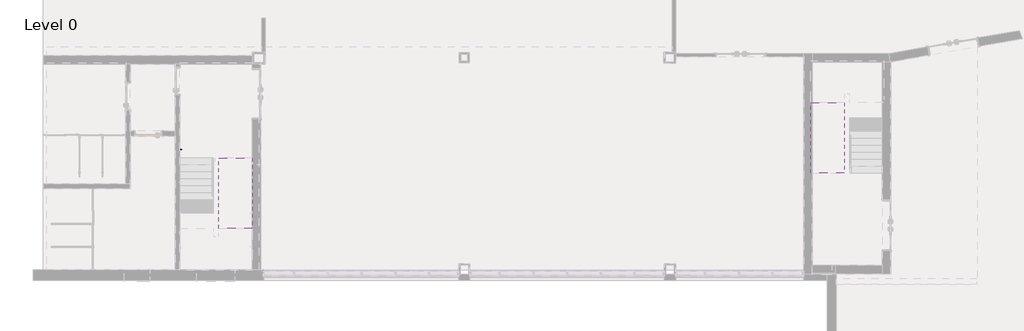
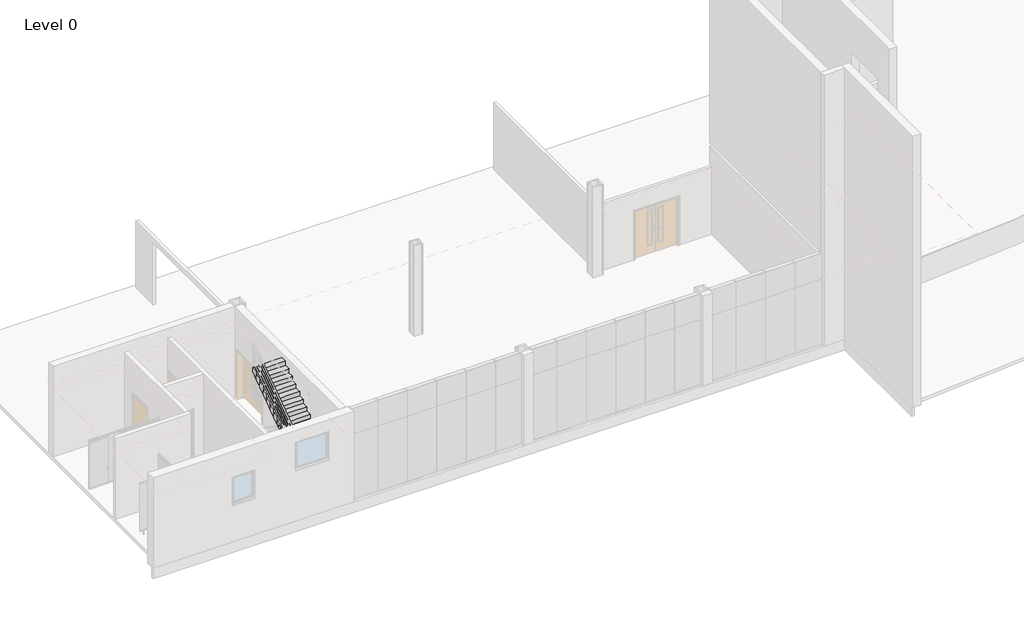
# One storey, part 12 of 14: 2 stair flights, 1 proxy.
"""IFC4 building model written with IfcOpenShell, lengths in millimetres."""

import ifcopenshell
import ifcopenshell.guid

model = None  # the IFC model being written
_history = None  # IfcOwnerHistory: only IFC2X3 demands one
_inside = {}  # id of a spatial element -> (the spatial element, [elements in it])
_under = {}  # id of a project, library or spatial element -> (it, [spatial elements below it])
_declared = {}  # id of a project -> (the project, [libraries it declares])
_typed = {}  # id of a type object -> (the type object, [elements of that type])
_made_of = {}  # id of a material, layer set ... -> (it, [elements and type objects made of it])


def new_model(schema):
    """Start an empty IFC model of exactly this schema.

    Asked for "IFC4X3", IfcOpenShell would pick the latest addendum, in which some entities
    have other attributes; the version numbers below select the first issue.
    IFC2X3 requires an IfcOwnerHistory on every rooted entity: one is made here for all.
    """
    global model, _history
    if schema == "IFC4X3":
        model = ifcopenshell.file(schema_version=(4, 3, 0, 0))
    else:
        model = ifcopenshell.file(schema=schema)
    _inside.clear()
    _under.clear()
    _declared.clear()
    _typed.clear()
    _made_of.clear()
    _history = None
    if model.schema == "IFC2X3":
        org = make("IfcOrganization", Name="unknown")
        user = make(
            "IfcPersonAndOrganization",
            ThePerson=make("IfcPerson", FamilyName="unknown"),
            TheOrganization=org,
        )
        app = make(
            "IfcApplication",
            ApplicationDeveloper=org,
            Version="unknown",
            ApplicationFullName="unknown",
            ApplicationIdentifier="unknown",
        )
        _history = make(
            "IfcOwnerHistory",
            OwningUser=user,
            OwningApplication=app,
            ChangeAction="ADDED",
            CreationDate=0,
        )
    return model


def make(cls, **values):
    """One entity of the class cls with the attributes given. An attribute that is None is left unset."""
    return model.create_entity(
        cls, **{name: value for name, value in values.items() if value is not None}
    )


def rooted(cls, **values):
    """An entity with a GlobalId (a new one), such as an element, a storey or a relation."""
    return make(cls, GlobalId=ifcopenshell.guid.new(), OwnerHistory=_history, **values)


def si_unit(unit_type, name, prefix=None):
    """IfcSIUnit, for example si_unit("LENGTHUNIT", "METRE", prefix="MILLI")."""
    return make("IfcSIUnit", UnitType=unit_type, Prefix=prefix, Name=name)


def assignment(units):
    """IfcUnitAssignment: the units of a project."""
    return None if units is None else make("IfcUnitAssignment", Units=units)


def point(xyz):
    """IfcCartesianPoint."""
    return None if xyz is None else make("IfcCartesianPoint", Coordinates=xyz)


def direction(xyz):
    """IfcDirection."""
    return None if xyz is None else make("IfcDirection", DirectionRatios=xyz)


def frame(location, z_axis=None, x_axis=None):
    """IfcAxis2Placement3D, a coordinate frame: its origin and axes. An axis left out is left unset."""
    return make(
        "IfcAxis2Placement3D",
        Location=point(location),
        Axis=direction(z_axis),
        RefDirection=direction(x_axis),
    )


def frame_2d(location, x_axis=None):
    """IfcAxis2Placement2D, a coordinate frame in the plane: its origin and x axis."""
    return make(
        "IfcAxis2Placement2D", Location=point(location), RefDirection=direction(x_axis)
    )


def origin():
    """The frame at (0, 0, 0) with its axes left unset."""
    return frame((0.0, 0.0, 0.0))


def origin_with_axes():
    """The frame at (0, 0, 0) with the z axis (0, 0, 1) and the x axis (1, 0, 0) written out."""
    return frame((0.0, 0.0, 0.0), z_axis=(0.0, 0.0, 1.0), x_axis=(1.0, 0.0, 0.0))


def place(relative_to, where):
    """IfcLocalPlacement: puts the frame where relative to a parent placement (None: the world)."""
    return make(
        "IfcLocalPlacement", PlacementRelTo=relative_to, RelativePlacement=where
    )


def context(
    kind, dimensions, precision=None, world=None, true_north=None, identifier=None
):
    """IfcGeometricRepresentationContext, for example the 3D "Model" context."""
    return make(
        "IfcGeometricRepresentationContext",
        ContextIdentifier=identifier,
        ContextType=kind,
        CoordinateSpaceDimension=dimensions,
        Precision=precision,
        WorldCoordinateSystem=world,
        TrueNorth=true_north,
    )


def project(units=None, contexts=None):
    """IfcProject with its units and contexts."""
    return rooted(
        "IfcProject",
        Name="project",
        RepresentationContexts=contexts,
        UnitsInContext=assignment(units),
    )


def spatial(cls, under=None, at=None, **own):
    """A site, building, storey or space (cls), placed at a placement, below another one or the project."""
    s = rooted(cls, ObjectPlacement=at, **own)
    if under is not None:
        _under.setdefault(under.id(), (under, []))[1].append(s)
    return s


def polyline(points):
    """IfcPolyline through the points."""
    return make("IfcPolyline", Points=[point(p) for p in points])


def circle_curve(where, radius):
    """IfcCircle in the frame where."""
    return make("IfcCircle", Position=where, Radius=radius)


def ellipse_curve(where, semi_axis1, semi_axis2):
    """IfcEllipse in the frame where."""
    return make(
        "IfcEllipse", Position=where, SemiAxis1=semi_axis1, SemiAxis2=semi_axis2
    )


def trimmed(basis, trim1, trim2, sense, master):
    """IfcTrimmedCurve: the piece of a basis curve between two trims."""
    return make(
        "IfcTrimmedCurve",
        BasisCurve=basis,
        Trim1=trim1,
        Trim2=trim2,
        SenseAgreement=sense,
        MasterRepresentation=master,
    )


def segment(curve, same_sense, transition):
    """IfcCompositeCurveSegment."""
    return make(
        "IfcCompositeCurveSegment",
        Transition=transition,
        SameSense=same_sense,
        ParentCurve=curve,
    )


def composite_curve(segments, self_intersect=None):
    """IfcCompositeCurve: segments joined end to end."""
    return make("IfcCompositeCurve", Segments=segments, SelfIntersect=self_intersect)


def outline(outer, holes=None, kind="AREA"):
    """IfcArbitraryClosedProfileDef: a profile drawn as a closed curve; with holes, ...WithVoids."""
    if holes is None:
        return make("IfcArbitraryClosedProfileDef", ProfileType=kind, OuterCurve=outer)
    return make(
        "IfcArbitraryProfileDefWithVoids",
        ProfileType=kind,
        OuterCurve=outer,
        InnerCurves=holes,
    )


def extrude(swept, where, along, depth):
    """IfcExtrudedAreaSolid: the profile swept, set in the frame where, extruded along a direction by depth."""
    return make(
        "IfcExtrudedAreaSolid",
        SweptArea=swept,
        Position=where,
        ExtrudedDirection=direction(along),
        Depth=depth,
    )


def faces_of(points, faces, orient=None, outer=None):
    """IfcFace entities. A face is a list of loops; a loop is a list of indices into points, from 0.

    orient and outer hold one flag for each loop. By default every Orientation is true, the
    first loop of a face is its IfcFaceOuterBound and the others are IfcFaceBound.
    """
    made = []
    for i, loops in enumerate(faces):
        bounds = []
        for j, loop in enumerate(loops):
            is_outer = j == 0 if outer is None else outer[i][j]
            bounds.append(
                make(
                    "IfcFaceOuterBound" if is_outer else "IfcFaceBound",
                    Bound=make("IfcPolyLoop", Polygon=[points[k] for k in loop]),
                    Orientation=True if orient is None else orient[i][j],
                )
            )
        made.append(make("IfcFace", Bounds=bounds))
    return made


def faceted_brep(points, faces, orient=None, outer=None, voids=None):
    """IfcFacetedBrep: a solid bounded by flat faces; with voids (closed shells), ...WithVoids."""
    shared = [point(p) for p in points]
    hull = make("IfcClosedShell", CfsFaces=faces_of(shared, faces, orient, outer))
    if voids is None:
        return make("IfcFacetedBrep", Outer=hull)
    return make(
        "IfcFacetedBrepWithVoids",
        Outer=hull,
        Voids=[
            make(cls, CfsFaces=faces_of(shared, fs, o, b)) for cls, fs, o, b in voids
        ],
    )


def shape(context_of_items, identifier, shape_type, items):
    """IfcShapeRepresentation: the items that make up one representation, for example the "Body"."""
    return make(
        "IfcShapeRepresentation",
        ContextOfItems=context_of_items,
        RepresentationIdentifier=identifier,
        RepresentationType=shape_type,
        Items=items,
    )


def source(mapping_origin, context_of_items, identifier, shape_type, items):
    """IfcRepresentationMap: a shape defined once, which mapped items show again and again."""
    return make(
        "IfcRepresentationMap",
        MappingOrigin=mapping_origin,
        MappedRepresentation=shape(context_of_items, identifier, shape_type, items),
    )


def transform(
    local_origin,
    x_axis=None,
    y_axis=None,
    z_axis=None,
    scale=None,
    scale2=None,
    scale3=None,
    uniform=True,
):
    """IfcCartesianTransformationOperator3D, or its non-uniform kind. x_axis, y_axis, z_axis: its Axis1, 2, 3."""
    if uniform:
        return make(
            "IfcCartesianTransformationOperator3D",
            Axis1=direction(x_axis),
            Axis2=direction(y_axis),
            LocalOrigin=point(local_origin),
            Scale=scale,
            Axis3=direction(z_axis),
        )
    return make(
        "IfcCartesianTransformationOperator3DnonUniform",
        Axis1=direction(x_axis),
        Axis2=direction(y_axis),
        LocalOrigin=point(local_origin),
        Scale=scale,
        Axis3=direction(z_axis),
        Scale2=scale2,
        Scale3=scale3,
    )


def mapped(mapping_source, mapping_target):
    """IfcMappedItem: shows the shape of a source again, moved by a transform."""
    return make(
        "IfcMappedItem", MappingSource=mapping_source, MappingTarget=mapping_target
    )


def made_of(thing, what):
    """Note that an element or type object is made of a material, layer set ...; save() writes the relation."""
    if what is not None:
        _made_of.setdefault(what.id(), (what, []))[1].append(thing)
    return thing


def element(
    cls,
    number,
    at=None,
    inside=None,
    cuts=None,
    type_object=None,
    material=None,
    context=None,
    identifier="Body",
    shape_type=None,
    held_by="IfcProductDefinitionShape",
    body=None,
    shapes=None,
    **own,
):
    """One element of the class cls, such as IfcWall. Its Tag is "e" and its number.

    at: its placement. inside: the storey or other place that contains it. cuts: it is an
    opening in that element (IfcRelVoidsElement). A single representation is given by context,
    identifier, shape_type and body (its items); several are given by shapes. held_by: the class
    of the entity that holds the representations. save() writes the other relations.
    """
    e = rooted(cls, Tag="e%d" % number, ObjectPlacement=at, **own)
    if body is not None:
        shapes = [shape(context, identifier, shape_type, body)]
    if shapes is not None:
        e.Representation = make(held_by, Representations=shapes)
    if inside is not None:
        _inside.setdefault(inside.id(), (inside, []))[1].append(e)
    if cuts is not None:
        rooted(
            "IfcRelVoidsElement", RelatingBuildingElement=cuts, RelatedOpeningElement=e
        )
    if type_object is not None:
        _typed.setdefault(type_object.id(), (type_object, []))[1].append(e)
    return made_of(e, material)


def aggregate(whole, parts):
    """IfcRelAggregates: a whole, such as a stair, and the parts it consists of."""
    return rooted("IfcRelAggregates", RelatingObject=whole, RelatedObjects=parts)


def save(model, path):
    """Write the relations noted so far, then the file.

    IfcRelAggregates (storeys below a building ...), IfcRelContainedInSpatialStructure (elements
    in a storey), IfcRelDefinesByType, IfcRelAssociatesMaterial and IfcRelDeclares: one each for
    every whole, place, type object, material and project.
    """
    for whole, parts in _under.values():
        aggregate(whole, parts)
    for where, things in _inside.values():
        rooted(
            "IfcRelContainedInSpatialStructure",
            RelatedElements=things,
            RelatingStructure=where,
        )
    for kind, things in _typed.values():
        rooted("IfcRelDefinesByType", RelatedObjects=things, RelatingType=kind)
    for what, things in _made_of.values():
        rooted("IfcRelAssociatesMaterial", RelatedObjects=things, RelatingMaterial=what)
    for by, libraries in _declared.values():
        rooted("IfcRelDeclares", RelatingContext=by, RelatedDefinitions=libraries)
    model.write(path)


def plane_surface(at):
    """IfcPlane: the flat surface through the origin of the frame at, square to its z axis."""
    return make("IfcPlane", Position=at)


def cylinder_surface(at, radius):
    """IfcCylindricalSurface: all points at the distance radius from the z axis of the frame at."""
    return make("IfcCylindricalSurface", Position=at, Radius=radius)


def revolved_surface(curve, axis_point, axis_direction):
    """IfcSurfaceOfRevolution: the curve turned about the line through axis_point along axis_direction."""
    return make(
        "IfcSurfaceOfRevolution",
        SweptCurve=make("IfcArbitraryOpenProfileDef", ProfileType="CURVE", Curve=curve),
        AxisPosition=make("IfcAxis1Placement", Location=point(axis_point), Axis=direction(axis_direction)),
    )


def advanced_brep(points, edges, surfaces, faces):
    """IfcAdvancedBrep: a solid bounded by faces that lie on surfaces and meet in shared edges.

    An edge is (start, end): straight between two places in points (the first is 0);
    or (start, end, curve); or (start, end, curve, False) where it runs against its curve.
    A face is (place in surfaces, loops), or (place, loops, False) where it looks against
    its surface's normal. A loop lists edges by number (the first is 1), with a minus sign
    where the edge is run from its end to its start. The first loop is the outer one.
    """
    corners = [point(p) for p in points]
    vertices = [make("IfcVertexPoint", VertexGeometry=c) for c in corners]
    made = []
    for start, end, *more in edges:
        made.append(
            make(
                "IfcEdgeCurve",
                EdgeStart=vertices[start],
                EdgeEnd=vertices[end],
                EdgeGeometry=more[0] if more else make("IfcPolyline", Points=[corners[start], corners[end]]),
                SameSense=more[1] if len(more) > 1 else True,
            )
        )
    hull = []
    for where, loops, *sense in faces:
        bounds = []
        for j, loop in enumerate(loops):
            ring = [make("IfcOrientedEdge", EdgeElement=made[abs(k) - 1], Orientation=k > 0) for k in loop]
            bounds.append(
                make(
                    "IfcFaceOuterBound" if j == 0 else "IfcFaceBound",
                    Bound=make("IfcEdgeLoop", EdgeList=ring),
                    Orientation=True,
                )
            )
        hull.append(make("IfcAdvancedFace", Bounds=bounds, FaceSurface=surfaces[where], SameSense=sense[0] if sense else True))
    return make("IfcAdvancedBrep", Outer=make("IfcClosedShell", CfsFaces=hull))


def support_metal_circular_support_metal_circular_016e83f0(model_context):
    return source(origin(), model_context, "Body", "SolidModel", [
        advanced_brep(
        [(-6.0, 0.0, 0.0), (6.0, 0.0, 0.0), (-6.0, 0.0, -38.0), (6.0, 0.0, -38.0), (6.0, 12.0, -50.0), (-6.0, 12.0, -50.0), (-6.0, 63.0, -50.0), (6.0, 63.0, -50.0)],
        [
            (0, 1, circle_curve(origin_with_axes(), 6.0)),
            (1, 0, circle_curve(origin_with_axes(), 6.0)),
            (0, 2),
            (2, 3, circle_curve(frame((0.0, 0.0, -38.0), z_axis=(0.0, 0.0, 1.0), x_axis=(1.0, 0.0, 0.0)), 6.0)),
            (3, 1),
            (3, 2, circle_curve(frame((0.0, 0.0, -38.0), z_axis=(0.0, 0.0, 1.0), x_axis=(1.0, 0.0, 0.0)), 6.0)),
            (4, 3, circle_curve(frame((6.0, 12.0, -38.0), z_axis=(-1.0, 0.0, 0.0), x_axis=(0.0, -1.0, 0.0)), 12.0)),
            (2, 5, circle_curve(frame((-6.0, 12.0, -38.0), z_axis=(1.0, 0.0, 0.0), x_axis=(0.0, -1.0, 0.0)), 12.0)),
            (5, 4, circle_curve(frame((0.0, 12.0, -50.0), z_axis=(0.0, -1.0, 0.0), x_axis=(1.0, 0.0, 0.0)), 6.0)),
            (4, 5, circle_curve(frame((0.0, 12.0, -50.0), z_axis=(0.0, -1.0, 0.0), x_axis=(1.0, 0.0, 0.0)), 6.0)),
            (6, 7, circle_curve(frame((0.0, 63.0, -50.0), z_axis=(0.0, 1.0, 0.0), x_axis=(1.0, 0.0, 0.0)), 6.0)),
            (7, 6, circle_curve(frame((0.0, 63.0, -50.0), z_axis=(0.0, 1.0, 0.0), x_axis=(1.0, 0.0, 0.0)), 6.0)),
            (5, 6),
            (7, 4),
        ],
        [
            plane_surface(origin_with_axes()),
            cylinder_surface(origin_with_axes(), 6.0),
            revolved_surface(trimmed(ellipse_curve(frame((0.0, 0.0, -38.0), z_axis=(0.0, 0.0, 1.0), x_axis=(1.0, 0.0, 0.0)), 6.0, 6.0), [point((-6.0, 0.0, -38.0))], [point((6.0, 0.0, -38.0))], True, "CARTESIAN"), (0.0, 12.0, -38.0), (1.0, 0.0, 0.0)),
            revolved_surface(trimmed(ellipse_curve(frame((0.0, 0.0, -38.0), z_axis=(0.0, 0.0, 1.0), x_axis=(1.0, 0.0, 0.0)), 6.0, 6.0), [point((6.0, 0.0, -38.0))], [point((-6.0, 0.0, -38.0))], True, "CARTESIAN"), (0.0, 12.0, -38.0), (1.0, 0.0, 0.0)),
            plane_surface(frame((0.0, 63.0, -50.0), z_axis=(0.0, 1.0, 0.0), x_axis=(1.0, 0.0, 0.0))),
            cylinder_surface(frame((0.0, 12.0, -50.0), z_axis=(0.0, -1.0, 0.0), x_axis=(1.0, 0.0, 0.0)), 6.0),
        ],
        [
            (0, [[1, 2]]),
            (1, [[-1, 3, 4, 5]]),
            (1, [[-2, -5, 6, -3]]),
            (2, [[7, -4, 8, 9]]),
            (3, [[-8, -6, -7, 10]]),
            (4, [[11, 12]]),
            (5, [[-9, 13, -12, 14]]),
            (5, [[-10, -14, -11, -13]]),
        ],
    ),
        extrude(outline(composite_curve([segment(trimmed(circle_curve(frame_2d((-50.0, 0.0)), 25.0), [point((-50.0, -25.0))], [point((-50.0, 25.0))], False, "CARTESIAN"), True, "CONTINUOUS"), segment(trimmed(circle_curve(frame_2d((-50.0, 0.0)), 25.0), [point((-50.0, 25.0))], [point((-50.0, -25.0))], False, "CARTESIAN"), True, "CONTINUOUS")], self_intersect=False)), frame((0.0, 63.0, 0.0), z_axis=(0.0, 1.0, 0.0), x_axis=(0.0, 0.0, 1.0)), (0.0, 0.0, 1.0), 12.0),
    ])


model = new_model("IFC4")

# Units and contexts
model_context = context("Model", 3, world=origin())
ifc_project = project(units=[si_unit("LENGTHUNIT", "METRE", prefix="MILLI")], contexts=[model_context])

# Site, building, storey
site = spatial("IfcSite", under=ifc_project)
building = spatial("IfcBuilding", under=site)
storey = spatial("IfcBuildingStorey", under=building, Name="Level 0", Elevation=0.0)

# Proxy
placement = place(None, origin())
support_metal_circular_support_metal_circular_shape = support_metal_circular_support_metal_circular_016e83f0(model_context)
element("IfcBuildingElementProxy", 1, Name="Support - Metal - Circular : Support - Metal - Circular", ObjectType="Support - Metal - Circular : Support - Metal - Circular", at=placement, inside=storey, context=model_context, shape_type="MappedRepresentation", body=[
    mapped(support_metal_circular_support_metal_circular_shape, transform((5322.6000024, 4600.0, 1059.3919555), x_axis=(0.0, 1.0, 0.0), y_axis=(-1.0, 0.0, 0.0), z_axis=(0.0, 0.0, 1.0))),
])

# Stair flights
element("IfcStairFlight", 2, ObjectType="1mm_Tread-150mm_Depth", at=placement, inside=storey, context=model_context, shape_type="SolidModel", body=[
    faceted_brep([(6637.2000025, 2050.0, 2126.2727273), (6637.2000025, 1800.0, 2126.2727273), (7837.2000023, 1800.0, 2126.2727273), (7837.2000023, 2050.0, 2126.2727273), (6637.2000025, 2050.0, 1942.3890055), (6637.2000025, 1800.0, 1765.1162782), (6637.2000025, 1800.0, 1949.0), (7837.2000023, 1800.0, 1765.1162782), (7837.2000023, 1800.0, 1949.0), (7837.2000023, 2050.0, 1942.3890055), (6637.2000025, 2300.0, 2303.5454545), (6637.2000025, 2050.0, 2303.5454545), (7837.2000023, 2050.0, 2303.5454545), (7837.2000023, 2300.0, 2303.5454545), (6637.2000025, 2300.0, 2119.6617328), (7837.2000023, 2300.0, 2119.6617328), (6637.2000025, 2550.0, 2480.8181818), (6637.2000025, 2300.0, 2480.8181818), (7837.2000023, 2300.0, 2480.8181818), (7837.2000023, 2550.0, 2480.8181818), (6637.2000025, 2550.0, 2296.93446), (7837.2000023, 2550.0, 2296.93446), (6637.2000025, 2800.0, 2658.0909091), (6637.2000025, 2550.0, 2658.0909091), (7837.2000023, 2550.0, 2658.0909091), (7837.2000023, 2800.0, 2658.0909091), (6637.2000025, 2800.0, 2474.2071873), (7837.2000023, 2800.0, 2474.2071873), (6637.2000025, 3050.0, 2835.3636364), (6637.2000025, 2800.0, 2835.3636364), (7837.2000023, 2800.0, 2835.3636364), (7837.2000023, 3050.0, 2835.3636364), (6637.2000025, 3050.0, 2651.4799146), (7837.2000023, 3050.0, 2651.4799146), (6637.2000025, 3300.0, 3012.6363636), (6637.2000025, 3050.0, 3012.6363636), (7837.2000023, 3050.0, 3012.6363636), (7837.2000023, 3300.0, 3012.6363636), (6637.2000025, 3300.0, 2828.7526418), (7837.2000023, 3300.0, 2828.7526418), (6637.2000025, 3550.0, 3189.9090909), (6637.2000025, 3300.0, 3189.9090909), (7837.2000023, 3300.0, 3189.9090909), (7837.2000023, 3550.0, 3189.9090909), (6637.2000025, 3550.0, 3006.0253691), (7837.2000023, 3550.0, 3006.0253691), (6637.2000025, 3800.0, 3367.1818182), (6637.2000025, 3550.0, 3367.1818182), (7837.2000023, 3550.0, 3367.1818182), (7837.2000023, 3800.0, 3367.1818182), (6637.2000025, 3800.0, 3183.2980964), (7837.2000023, 3800.0, 3183.2980964), (6637.2000025, 4050.0, 3544.4545455), (6637.2000025, 3800.0, 3544.4545455), (7837.2000023, 3800.0, 3544.4545455), (7837.2000023, 4050.0, 3544.4545455), (6637.2000025, 4050.0, 3360.5708237), (7837.2000023, 4050.0, 3360.5708237), (6637.2000025, 4300.0, 3537.8435509), (7837.2000023, 4300.0, 3537.8435509), (6637.2000025, 4300.0, 3721.7272727), (6637.2000025, 4050.0, 3721.7272727), (7837.2000023, 4050.0, 3721.7272727), (7837.2000023, 4300.0, 3721.7272727)], [[[0, 1, 2, 3]], [[1, 0, 4, 5, 6]], [[2, 1, 6, 5, 7, 8]], [[3, 2, 8, 7, 9]], [[10, 11, 12, 13]], [[11, 10, 14, 4, 0]], [[12, 11, 0, 3]], [[13, 12, 3, 9, 15]], [[16, 17, 18, 19]], [[17, 16, 20, 14, 10]], [[18, 17, 10, 13]], [[19, 18, 13, 15, 21]], [[22, 23, 24, 25]], [[23, 22, 26, 20, 16]], [[24, 23, 16, 19]], [[25, 24, 19, 21, 27]], [[28, 29, 30, 31]], [[29, 28, 32, 26, 22]], [[30, 29, 22, 25]], [[31, 30, 25, 27, 33]], [[34, 35, 36, 37]], [[35, 34, 38, 32, 28]], [[36, 35, 28, 31]], [[37, 36, 31, 33, 39]], [[40, 41, 42, 43]], [[41, 40, 44, 38, 34]], [[42, 41, 34, 37]], [[43, 42, 37, 39, 45]], [[46, 47, 48, 49]], [[47, 46, 50, 44, 40]], [[48, 47, 40, 43]], [[49, 48, 43, 45, 51]], [[52, 53, 54, 55]], [[53, 52, 56, 50, 46]], [[54, 53, 46, 49]], [[55, 54, 49, 51, 57]], [[5, 4, 14, 20, 26, 32, 38, 44, 50, 56, 58, 59, 57, 51, 45, 39, 33, 27, 21, 15, 9, 7]], [[60, 61, 62, 63]], [[61, 60, 58, 56, 52]], [[62, 61, 52, 55]], [[63, 62, 55, 57, 59]], [[60, 63, 59, 58]]]),
    extrude(outline(polyline([(6637.2000025, 2050.0), (7837.2000023, 2050.0), (7837.2000023, 1800.0), (6637.2000025, 1800.0), (6637.2000025, 2050.0)])), frame((0.0, 0.0, 2126.2727273), z_axis=(0.0, 0.0, 1.0), x_axis=(1.0, 0.0, 0.0)), (0.0, 0.0, 1.0), 1.0),
    extrude(outline(polyline([(6637.2000025, 2300.0), (7837.2000023, 2300.0), (7837.2000023, 2050.0), (6637.2000025, 2050.0), (6637.2000025, 2300.0)])), frame((0.0, 0.0, 2303.5454545), z_axis=(0.0, 0.0, 1.0), x_axis=(1.0, 0.0, 0.0)), (0.0, 0.0, 1.0), 1.0),
    extrude(outline(polyline([(6637.2000025, 2550.0), (7837.2000023, 2550.0), (7837.2000023, 2300.0), (6637.2000025, 2300.0), (6637.2000025, 2550.0)])), frame((0.0, 0.0, 2480.8181818), z_axis=(0.0, 0.0, 1.0), x_axis=(1.0, 0.0, 0.0)), (0.0, 0.0, 1.0), 1.0),
    extrude(outline(polyline([(6637.2000025, 2800.0), (7837.2000023, 2800.0), (7837.2000023, 2550.0), (6637.2000025, 2550.0), (6637.2000025, 2800.0)])), frame((0.0, 0.0, 2658.0909091), z_axis=(0.0, 0.0, 1.0), x_axis=(1.0, 0.0, 0.0)), (0.0, 0.0, 1.0), 1.0),
    extrude(outline(polyline([(6637.2000025, 3050.0), (7837.2000023, 3050.0), (7837.2000023, 2800.0), (6637.2000025, 2800.0), (6637.2000025, 3050.0)])), frame((0.0, 0.0, 2835.3636364), z_axis=(0.0, 0.0, 1.0), x_axis=(1.0, 0.0, 0.0)), (0.0, 0.0, 1.0), 1.0),
    extrude(outline(polyline([(6637.2000025, 3300.0), (7837.2000023, 3300.0), (7837.2000023, 3050.0), (6637.2000025, 3050.0), (6637.2000025, 3300.0)])), frame((0.0, 0.0, 3012.6363636), z_axis=(0.0, 0.0, 1.0), x_axis=(1.0, 0.0, 0.0)), (0.0, 0.0, 1.0), 1.0),
    extrude(outline(polyline([(6637.2000025, 3550.0), (7837.2000023, 3550.0), (7837.2000023, 3300.0), (6637.2000025, 3300.0), (6637.2000025, 3550.0)])), frame((0.0, 0.0, 3189.9090909), z_axis=(0.0, 0.0, 1.0), x_axis=(1.0, 0.0, 0.0)), (0.0, 0.0, 1.0), 1.0),
    extrude(outline(polyline([(6637.2000025, 3800.0), (7837.2000023, 3800.0), (7837.2000023, 3550.0), (6637.2000025, 3550.0), (6637.2000025, 3800.0)])), frame((0.0, 0.0, 3367.1818182), z_axis=(0.0, 0.0, 1.0), x_axis=(1.0, 0.0, 0.0)), (0.0, 0.0, 1.0), 1.0),
    extrude(outline(polyline([(6637.2000025, 4050.0), (7837.2000023, 4050.0), (7837.2000023, 3800.0), (6637.2000025, 3800.0), (6637.2000025, 4050.0)])), frame((0.0, 0.0, 3544.4545455), z_axis=(0.0, 0.0, 1.0), x_axis=(1.0, 0.0, 0.0)), (0.0, 0.0, 1.0), 1.0),
    extrude(outline(polyline([(6637.2000025, 4300.0), (7837.2000023, 4300.0), (7837.2000023, 4050.0), (6637.2000025, 4050.0), (6637.2000025, 4300.0)])), frame((0.0, 0.0, 3721.7272727), z_axis=(0.0, 0.0, 1.0), x_axis=(1.0, 0.0, 0.0)), (0.0, 0.0, 1.0), 1.0),
])
element("IfcStairFlight", 3, ObjectType="1mm_Tread-150mm_Depth", at=placement, inside=storey, context=model_context, shape_type="SolidModel", body=[
    faceted_brep([(28862.2000029, 6013.2000006, 2126.2727273), (28862.2000029, 6263.2000006, 2126.2727273), (27662.2000031, 6263.2000006, 2126.2727273), (27662.2000031, 6013.2000006, 2126.2727273), (28862.2000029, 6013.2000006, 1942.3890055), (28862.2000029, 6263.2000006, 1765.1162782), (28862.2000029, 6263.2000006, 1949.0), (27662.2000031, 6263.2000006, 1765.1162782), (27662.2000031, 6263.2000006, 1949.0), (27662.2000031, 6013.2000006, 1942.3890055), (28862.2000029, 5763.2000006, 2303.5454545), (28862.2000029, 6013.2000006, 2303.5454545), (27662.2000031, 6013.2000006, 2303.5454545), (27662.2000031, 5763.2000006, 2303.5454545), (28862.2000029, 5763.2000006, 2119.6617328), (27662.2000031, 5763.2000006, 2119.6617328), (28862.2000029, 5513.2000006, 2480.8181818), (28862.2000029, 5763.2000006, 2480.8181818), (27662.2000031, 5763.2000006, 2480.8181818), (27662.2000031, 5513.2000006, 2480.8181818), (28862.2000029, 5513.2000006, 2296.93446), (27662.2000031, 5513.2000006, 2296.93446), (28862.2000029, 5263.2000006, 2658.0909091), (28862.2000029, 5513.2000006, 2658.0909091), (27662.2000031, 5513.2000006, 2658.0909091), (27662.2000031, 5263.2000006, 2658.0909091), (28862.2000029, 5263.2000006, 2474.2071873), (27662.2000031, 5263.2000006, 2474.2071873), (28862.2000029, 5013.2000006, 2835.3636364), (28862.2000029, 5263.2000006, 2835.3636364), (27662.2000031, 5263.2000006, 2835.3636364), (27662.2000031, 5013.2000006, 2835.3636364), (28862.2000029, 5013.2000006, 2651.4799146), (27662.2000031, 5013.2000006, 2651.4799146), (28862.2000029, 4763.2000006, 3012.6363636), (28862.2000029, 5013.2000006, 3012.6363636), (27662.2000031, 5013.2000006, 3012.6363636), (27662.2000031, 4763.2000006, 3012.6363636), (28862.2000029, 4763.2000006, 2828.7526418), (27662.2000031, 4763.2000006, 2828.7526418), (28862.2000029, 4513.2000006, 3189.9090909), (28862.2000029, 4763.2000006, 3189.9090909), (27662.2000031, 4763.2000006, 3189.9090909), (27662.2000031, 4513.2000006, 3189.9090909), (28862.2000029, 4513.2000006, 3006.0253691), (27662.2000031, 4513.2000006, 3006.0253691), (28862.2000029, 4263.2000006, 3367.1818182), (28862.2000029, 4513.2000006, 3367.1818182), (27662.2000031, 4513.2000006, 3367.1818182), (27662.2000031, 4263.2000006, 3367.1818182), (28862.2000029, 4263.2000006, 3183.2980964), (27662.2000031, 4263.2000006, 3183.2980964), (28862.2000029, 4013.2000006, 3544.4545455), (28862.2000029, 4263.2000006, 3544.4545455), (27662.2000031, 4263.2000006, 3544.4545455), (27662.2000031, 4013.2000006, 3544.4545455), (28862.2000029, 4013.2000006, 3360.5708237), (27662.2000031, 4013.2000006, 3360.5708237), (28862.2000029, 3763.2000006, 3537.8435509), (27662.2000031, 3763.2000006, 3537.8435509), (28862.2000029, 3763.2000006, 3721.7272727), (28862.2000029, 4013.2000006, 3721.7272727), (27662.2000031, 4013.2000006, 3721.7272727), (27662.2000031, 3763.2000006, 3721.7272727)], [[[0, 1, 2, 3]], [[1, 0, 4, 5, 6]], [[2, 1, 6, 5, 7, 8]], [[3, 2, 8, 7, 9]], [[10, 11, 12, 13]], [[11, 10, 14, 4, 0]], [[12, 11, 0, 3]], [[13, 12, 3, 9, 15]], [[16, 17, 18, 19]], [[17, 16, 20, 14, 10]], [[18, 17, 10, 13]], [[19, 18, 13, 15, 21]], [[22, 23, 24, 25]], [[23, 22, 26, 20, 16]], [[24, 23, 16, 19]], [[25, 24, 19, 21, 27]], [[28, 29, 30, 31]], [[29, 28, 32, 26, 22]], [[30, 29, 22, 25]], [[31, 30, 25, 27, 33]], [[34, 35, 36, 37]], [[35, 34, 38, 32, 28]], [[36, 35, 28, 31]], [[37, 36, 31, 33, 39]], [[40, 41, 42, 43]], [[41, 40, 44, 38, 34]], [[42, 41, 34, 37]], [[43, 42, 37, 39, 45]], [[46, 47, 48, 49]], [[47, 46, 50, 44, 40]], [[48, 47, 40, 43]], [[49, 48, 43, 45, 51]], [[52, 53, 54, 55]], [[53, 52, 56, 50, 46]], [[54, 53, 46, 49]], [[55, 54, 49, 51, 57]], [[5, 4, 14, 20, 26, 32, 38, 44, 50, 56, 58, 59, 57, 51, 45, 39, 33, 27, 21, 15, 9, 7]], [[60, 61, 62, 63]], [[61, 60, 58, 56, 52]], [[62, 61, 52, 55]], [[63, 62, 55, 57, 59]], [[60, 63, 59, 58]]]),
    extrude(outline(polyline([(28862.2000029, 6013.2000006), (27662.2000031, 6013.2000006), (27662.2000031, 6263.2000006), (28862.2000029, 6263.2000006), (28862.2000029, 6013.2000006)])), frame((0.0, 0.0, 2126.2727273), z_axis=(0.0, 0.0, 1.0), x_axis=(1.0, 0.0, 0.0)), (0.0, 0.0, 1.0), 1.0),
    extrude(outline(polyline([(28862.2000029, 5763.2000006), (27662.2000031, 5763.2000006), (27662.2000031, 6013.2000006), (28862.2000029, 6013.2000006), (28862.2000029, 5763.2000006)])), frame((0.0, 0.0, 2303.5454545), z_axis=(0.0, 0.0, 1.0), x_axis=(1.0, 0.0, 0.0)), (0.0, 0.0, 1.0), 1.0),
    extrude(outline(polyline([(28862.2000029, 5513.2000006), (27662.2000031, 5513.2000006), (27662.2000031, 5763.2000006), (28862.2000029, 5763.2000006), (28862.2000029, 5513.2000006)])), frame((0.0, 0.0, 2480.8181818), z_axis=(0.0, 0.0, 1.0), x_axis=(1.0, 0.0, 0.0)), (0.0, 0.0, 1.0), 1.0),
    extrude(outline(polyline([(28862.2000029, 5263.2000006), (27662.2000031, 5263.2000006), (27662.2000031, 5513.2000006), (28862.2000029, 5513.2000006), (28862.2000029, 5263.2000006)])), frame((0.0, 0.0, 2658.0909091), z_axis=(0.0, 0.0, 1.0), x_axis=(1.0, 0.0, 0.0)), (0.0, 0.0, 1.0), 1.0),
    extrude(outline(polyline([(28862.2000029, 5013.2000006), (27662.2000031, 5013.2000006), (27662.2000031, 5263.2000006), (28862.2000029, 5263.2000006), (28862.2000029, 5013.2000006)])), frame((0.0, 0.0, 2835.3636364), z_axis=(0.0, 0.0, 1.0), x_axis=(1.0, 0.0, 0.0)), (0.0, 0.0, 1.0), 1.0),
    extrude(outline(polyline([(28862.2000029, 4763.2000006), (27662.2000031, 4763.2000006), (27662.2000031, 5013.2000006), (28862.2000029, 5013.2000006), (28862.2000029, 4763.2000006)])), frame((0.0, 0.0, 3012.6363636), z_axis=(0.0, 0.0, 1.0), x_axis=(1.0, 0.0, 0.0)), (0.0, 0.0, 1.0), 1.0),
    extrude(outline(polyline([(28862.2000029, 4513.2000006), (27662.2000031, 4513.2000006), (27662.2000031, 4763.2000006), (28862.2000029, 4763.2000006), (28862.2000029, 4513.2000006)])), frame((0.0, 0.0, 3189.9090909), z_axis=(0.0, 0.0, 1.0), x_axis=(1.0, 0.0, 0.0)), (0.0, 0.0, 1.0), 1.0),
    extrude(outline(polyline([(28862.2000029, 4263.2000006), (27662.2000031, 4263.2000006), (27662.2000031, 4513.2000006), (28862.2000029, 4513.2000006), (28862.2000029, 4263.2000006)])), frame((0.0, 0.0, 3367.1818182), z_axis=(0.0, 0.0, 1.0), x_axis=(1.0, 0.0, 0.0)), (0.0, 0.0, 1.0), 1.0),
    extrude(outline(polyline([(28862.2000029, 4013.2000006), (27662.2000031, 4013.2000006), (27662.2000031, 4263.2000006), (28862.2000029, 4263.2000006), (28862.2000029, 4013.2000006)])), frame((0.0, 0.0, 3544.4545455), z_axis=(0.0, 0.0, 1.0), x_axis=(1.0, 0.0, 0.0)), (0.0, 0.0, 1.0), 1.0),
    extrude(outline(polyline([(28862.2000029, 3763.2000006), (27662.2000031, 3763.2000006), (27662.2000031, 4013.2000006), (28862.2000029, 4013.2000006), (28862.2000029, 3763.2000006)])), frame((0.0, 0.0, 3721.7272727), z_axis=(0.0, 0.0, 1.0), x_axis=(1.0, 0.0, 0.0)), (0.0, 0.0, 1.0), 1.0),
])

save(model, "model.ifc")
